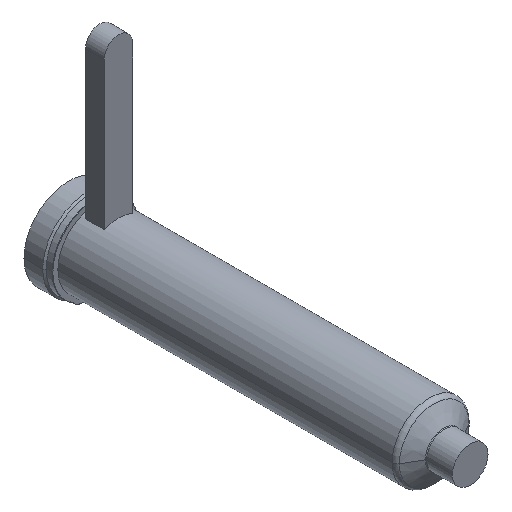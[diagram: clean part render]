
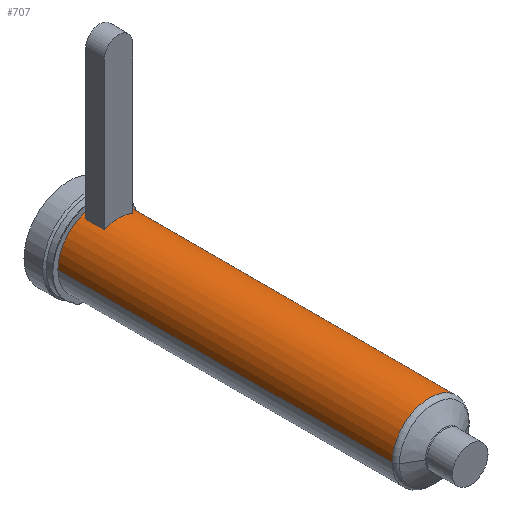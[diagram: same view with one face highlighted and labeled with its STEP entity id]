
A CAD part, isometric view. The second image highlights one B-rep face of the part: STEP entity #707.
In plain terms, the highlighted cylindrical face has radius 21 mm (diameter 42 mm), a partial arc.
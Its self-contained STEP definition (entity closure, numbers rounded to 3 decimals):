
#199=DIRECTION('',(0.,-1.,0.));
#200=VECTOR('',#199,187.228);
#201=CARTESIAN_POINT('',(21.,0.,0.));
#202=LINE('',#201,#200);
#203=CARTESIAN_POINT('',(0.,-187.228,0.));
#204=DIRECTION('',(0.,1.,0.));
#205=DIRECTION('',(-1.,0.,0.));
#206=AXIS2_PLACEMENT_3D('',#203,#204,#205);
#208=DIRECTION('',(0.,1.,0.));
#209=VECTOR('',#208,187.228);
#210=CARTESIAN_POINT('',(-21.,-187.228,0.));
#211=LINE('',#210,#209);
#212=CARTESIAN_POINT('',(0.,0.,0.));
#213=DIRECTION('',(0.,1.,0.));
#214=DIRECTION('',(-1.,0.,0.));
#215=AXIS2_PLACEMENT_3D('',#212,#213,#214);
#293=DIRECTION('',(0.,-1.,0.));
#294=VECTOR('',#293,10.5);
#295=CARTESIAN_POINT('',(-8.,-2.5,19.416));
#296=LINE('',#295,#294);
#297=CARTESIAN_POINT('',(0.,-13.,0.));
#298=DIRECTION('',(0.,1.,0.));
#299=DIRECTION('',(-0.381,0.,0.925));
#300=AXIS2_PLACEMENT_3D('',#297,#298,#299);
#323=CARTESIAN_POINT('',(0.,-2.5,0.));
#324=DIRECTION('',(0.,-1.,0.));
#325=DIRECTION('',(0.381,0.,0.925));
#326=AXIS2_PLACEMENT_3D('',#323,#324,#325);
#341=DIRECTION('',(0.,-1.,0.));
#342=VECTOR('',#341,10.5);
#343=CARTESIAN_POINT('',(8.,-2.5,19.416));
#344=LINE('',#343,#342);
#402=CARTESIAN_POINT('',(-21.,0.,0.));
#403=CARTESIAN_POINT('',(21.,0.,0.));
#404=VERTEX_POINT('',#402);
#405=VERTEX_POINT('',#403);
#414=CARTESIAN_POINT('',(-8.,-2.5,19.416));
#415=VERTEX_POINT('',#414);
#416=CARTESIAN_POINT('',(8.,-2.5,19.416));
#417=VERTEX_POINT('',#416);
#454=CARTESIAN_POINT('',(21.,-187.228,0.));
#455=VERTEX_POINT('',#454);
#464=CARTESIAN_POINT('',(-21.,-187.228,0.));
#465=VERTEX_POINT('',#464);
#466=CARTESIAN_POINT('',(-8.,-13.,19.416));
#467=CARTESIAN_POINT('',(8.,-13.,19.416));
#468=VERTEX_POINT('',#466);
#469=VERTEX_POINT('',#467);
#685=CARTESIAN_POINT('',(0.,16.4,0.));
#686=DIRECTION('',(0.,-1.,0.));
#687=DIRECTION('',(-1.,0.,0.));
#688=AXIS2_PLACEMENT_3D('',#685,#686,#687);
#689=CYLINDRICAL_SURFACE('',#688,21.);
#690=ORIENTED_EDGE('',*,*,#679,.T.);
#692=ORIENTED_EDGE('',*,*,#691,.F.);
#693=ORIENTED_EDGE('',*,*,#675,.T.);
#694=ORIENTED_EDGE('',*,*,#665,.T.);
#695=EDGE_LOOP('',(#690,#692,#693,#694));
#696=FACE_OUTER_BOUND('',#695,.F.);
#698=ORIENTED_EDGE('',*,*,#697,.T.);
#700=ORIENTED_EDGE('',*,*,#699,.T.);
#702=ORIENTED_EDGE('',*,*,#701,.F.);
#704=ORIENTED_EDGE('',*,*,#703,.T.);
#705=EDGE_LOOP('',(#698,#700,#702,#704));
#706=FACE_BOUND('',#705,.F.);
#707=ADVANCED_FACE('',(#696,#706),#689,.T.);
#207=CIRCLE('',#206,21.);
#216=CIRCLE('',#215,21.);
#301=CIRCLE('',#300,21.);
#327=CIRCLE('',#326,21.);
#665=EDGE_CURVE('',#404,#405,#216,.T.);
#675=EDGE_CURVE('',#465,#404,#211,.T.);
#679=EDGE_CURVE('',#405,#455,#202,.T.);
#691=EDGE_CURVE('',#465,#455,#207,.T.);
#697=EDGE_CURVE('',#415,#468,#296,.T.);
#699=EDGE_CURVE('',#468,#469,#301,.T.);
#701=EDGE_CURVE('',#417,#469,#344,.T.);
#703=EDGE_CURVE('',#417,#415,#327,.T.);
